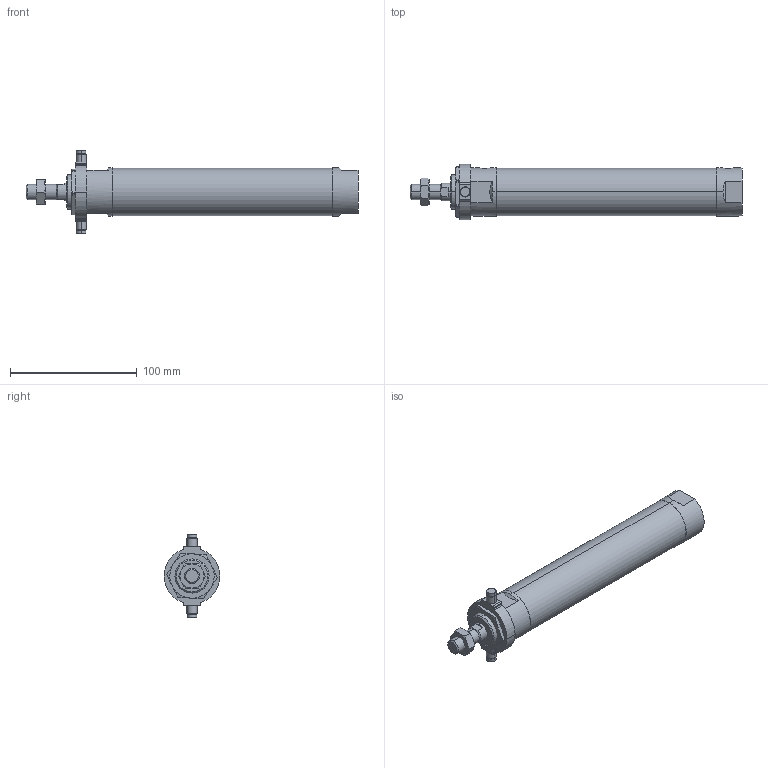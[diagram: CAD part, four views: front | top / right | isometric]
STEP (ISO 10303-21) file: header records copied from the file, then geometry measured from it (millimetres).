
FILE_DESCRIPTION (( 'STEP AP203' ), '1' );
FILE_NAME ('JGND2-32-125-T.STEP', '2016-08-04T02:54:01', ( '' ), ( '' ), 'SwSTEP 2.0', 'SolidWorks 2014', '' );
FILE_SCHEMA (( 'CONFIG_CONTROL_DESIGN' ));
Length unit declared in the file: millimetre
Products named in the file (5): J#2-32-125(P); J#2-32-T; JGND2-32-125-T
Assembly tree (4 placements, depth 2):
  JGND2-32-125-T
    J#2-32-125(P)
    (unnamed)
    (unnamed)
    J#2-32-T
Bounding box: 262 x 44 x 66 mm (x, y, z)
Volume: 260540.1 mm3; surface area: 38650.1 mm2
Topology: 4 solids, 4 shells, 128 faces, 293 edges, 177 vertices
Faces by surface type: plane 42, cylinder 41, torus 24, cone 21
Entity records: 4519 total; most frequent: CARTESIAN_POINT 1160, DIRECTION 614, ORIENTED_EDGE 578, EDGE_CURVE 289, AXIS2_PLACEMENT_3D 253, VERTEX_POINT 177, EDGE_LOOP 142, FACE_OUTER_BOUND 128
